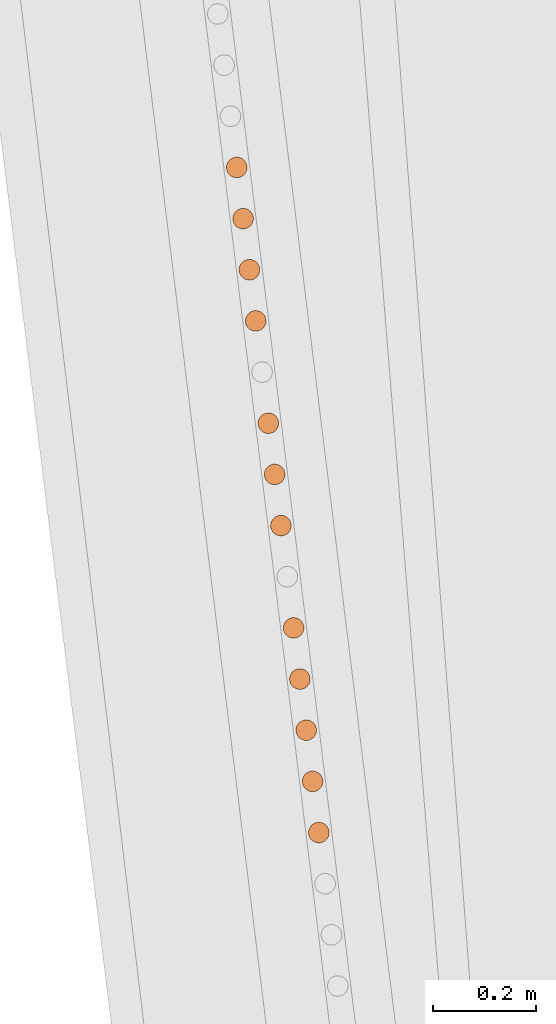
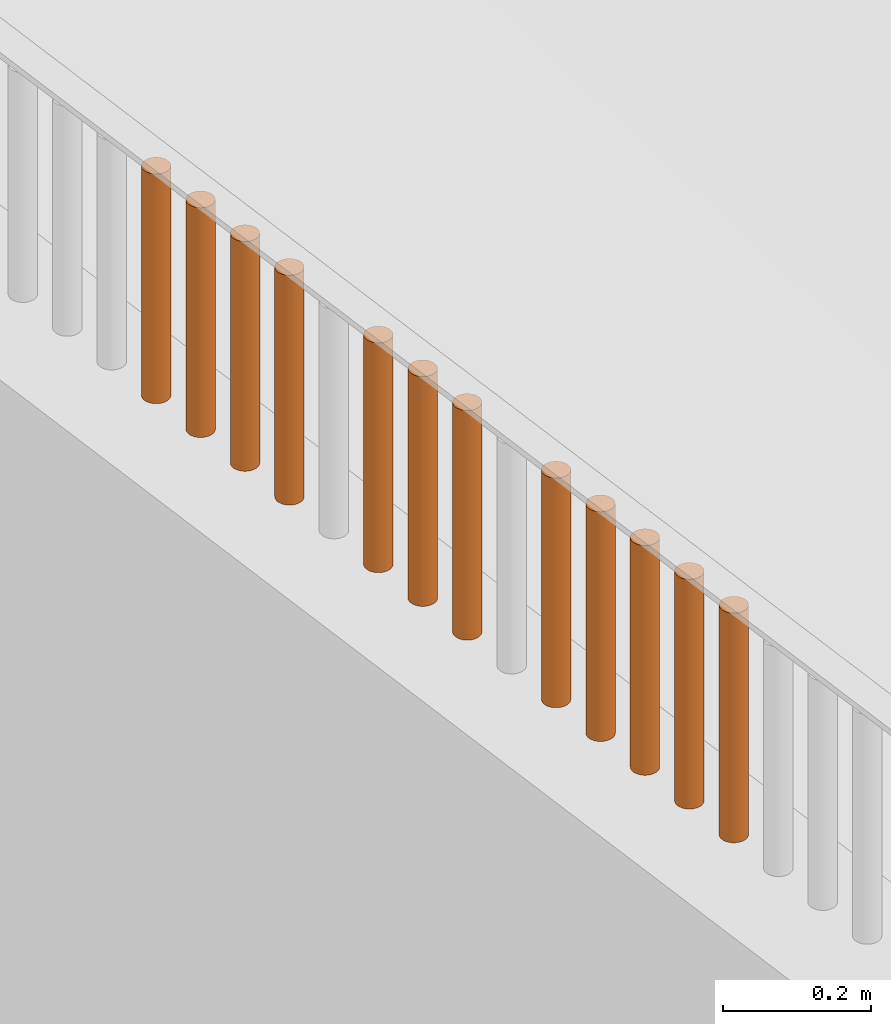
# One storey, part 67 of 1809: 12 proxies, 1 element without a shape of its own.
"""IFC2X3 building model written with IfcOpenShell, lengths in millimetres."""

from ifc_helpers import new_model, entity, si_unit, converted_unit, derived_unit, money_unit, direction, frame, origin_with_axes, place, context, subcontext, project, spatial, faceted_brep, source, transform, mapped, material, type_object, element, aggregate, save


model = new_model("IFC2X3")

# Units and contexts
model_context = context("Model", 3, precision=0.01, world=origin_with_axes(), true_north=direction((0.0, 1.0)))
body_context = subcontext(model_context, "Body", "Model", "MODEL_VIEW")
ifc_project = project(units=[si_unit("LENGTHUNIT", "METRE", prefix="MILLI"), si_unit("AREAUNIT", "SQUARE_METRE"), si_unit("VOLUMEUNIT", "CUBIC_METRE"), converted_unit("PLANEANGLEUNIT", "DEGREE", entity("IfcPlaneAngleMeasure", 0.0174532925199), si_unit("PLANEANGLEUNIT", "RADIAN"), dimensions=[0, 0, 0, 0, 0, 0, 0]), si_unit("SOLIDANGLEUNIT", "STERADIAN"), money_unit("EUR"), converted_unit("TIMEUNIT", "Year", entity("IfcTimeMeasure", 31556926.0), si_unit("TIMEUNIT", "SECOND"), dimensions=[0, 0, 1, 0, 0, 0, 0]), si_unit("MASSUNIT", "GRAM", prefix="KILO"), si_unit("THERMODYNAMICTEMPERATUREUNIT", "DEGREE_CELSIUS"), si_unit("LUMINOUSINTENSITYUNIT", "LUMEN"), si_unit("ENERGYUNIT", "JOULE", prefix="MEGA"), derived_unit("THERMALCONDUCTANCEUNIT", [(si_unit("POWERUNIT", "WATT"), 1), (si_unit("LENGTHUNIT", "METRE"), -1), (si_unit("THERMODYNAMICTEMPERATUREUNIT", "KELVIN"), -1)]), derived_unit("SPECIFICHEATCAPACITYUNIT", [(si_unit("ENERGYUNIT", "JOULE"), 1), (si_unit("MASSUNIT", "GRAM", prefix="KILO"), -1), (si_unit("THERMODYNAMICTEMPERATUREUNIT", "KELVIN"), -1)]), derived_unit("MASSDENSITYUNIT", [(si_unit("MASSUNIT", "GRAM", prefix="KILO"), 1), (si_unit("VOLUMEUNIT", "CUBIC_METRE"), -1)])], contexts=[model_context])

# Site, building, storey
site_placement = place(None, origin_with_axes())
site = spatial("IfcSite", under=ifc_project, at=site_placement, Name="Politse- ja Piirivalveameti ning Päästeameti ühishoone", CompositionType="ELEMENT")
building_placement = place(site_placement, origin_with_axes())
building = spatial("IfcBuilding", under=site, at=building_placement, Name="Politse- ja Piirivalveameti ning Päästeameti ühishoone", CompositionType="ELEMENT")
storey_placement = place(building_placement, origin_with_axes())
storey = spatial("IfcBuildingStorey", under=building, at=storey_placement, Name="Esimene korrus", CompositionType="ELEMENT", Elevation=0.0)

# Proxies
building_element_proxy_type_1 = type_object("IfcBuildingElementProxyType", Name="Railing Type", PredefinedType="NOTDEFINED")
proxy_1_placement = place(storey_placement, frame((-18956.5522504, -53688.4757966, 2100.0), z_axis=(0.0, 0.0, 1.0), x_axis=(1.0, 0.0, 0.0)))
proxy_1 = element("IfcBuildingElementProxy", 1, at=proxy_1_placement, inside=storey, type_object=building_element_proxy_type_1, Name="PIIRDEAED")
ifc_material = material(Name="ET-06_Teras - Konstruktsioon")
building_element_proxy_type_2 = type_object("IfcBuildingElementProxyType", Name="IfcBuildingElementProxy", PredefinedType="NOTDEFINED")
shared_shape_1 = source(origin_with_axes(), body_context, "Body", "Brep", [
    faceted_brep([(0.0, -20.0, 0.0), (3.47296355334, -19.6961550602, 0.0), (3.47296355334, -19.6961550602, 380.000012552), (0.0, -20.0, 380.000012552), (-3.47296355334, -19.6961550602, 0.0), (-6.84040286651, -18.7938524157, 0.0), (-10.0, -17.3205080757, 0.0), (-12.8557521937, -15.3208888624, 0.0), (-15.3208888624, -12.8557521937, 0.0), (-17.3205080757, -10.0, 0.0), (-18.7938524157, -6.84040286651, 0.0), (-19.6961550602, -3.47296355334, 0.0), (-20.0, 0.0, 0.0), (-19.6961550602, 3.47296355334, 0.0), (-18.7938524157, 6.84040286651, 0.0), (-17.3205080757, 10.0, 0.0), (-15.3208888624, 12.8557521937, 0.0), (-12.8557521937, 15.3208888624, 0.0), (-10.0, 17.3205080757, 0.0), (-6.84040286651, 18.7938524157, 0.0), (-3.47296355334, 19.6961550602, 0.0), (0.0, 20.0, 0.0), (3.47296355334, 19.6961550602, 0.0), (6.84040286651, 18.7938524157, 0.0), (10.0, 17.3205080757, 0.0), (12.8557521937, 15.3208888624, 0.0), (15.3208888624, 12.8557521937, 0.0), (17.3205080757, 10.0, 0.0), (18.7938524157, 6.84040286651, 0.0), (19.6961550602, 3.47296355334, 0.0), (20.0, 0.0, 0.0), (19.6961550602, -3.47296355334, 0.0), (18.7938524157, -6.84040286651, 0.0), (17.3205080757, -10.0, 0.0), (15.3208888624, -12.8557521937, 0.0), (12.8557521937, -15.3208888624, 0.0), (10.0, -17.3205080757, 0.0), (6.84040286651, -18.7938524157, 0.0), (6.84040286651, -18.7938524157, 380.000012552), (10.0, -17.3205080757, 380.000012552), (12.8557521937, -15.3208888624, 380.000012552), (15.3208888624, -12.8557521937, 380.000012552), (17.3205080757, -10.0, 380.000012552), (18.7938524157, -6.84040286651, 380.000012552), (19.6961550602, -3.47296355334, 380.000012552), (20.0, 0.0, 380.000012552), (19.6961550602, 3.47296355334, 380.000012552), (18.7938524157, 6.84040286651, 380.000012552), (17.3205080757, 10.0, 380.000012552), (15.3208888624, 12.8557521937, 380.000012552), (12.8557521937, 15.3208888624, 380.000012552), (10.0, 17.3205080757, 380.000012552), (6.84040286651, 18.7938524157, 380.000012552), (3.47296355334, 19.6961550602, 380.000012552), (0.0, 20.0, 380.000012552), (-3.47296355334, 19.6961550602, 380.000012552), (-6.84040286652, 18.7938524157, 380.000012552), (-10.0, 17.3205080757, 380.000012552), (-12.8557521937, 15.3208888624, 380.000012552), (-15.3208888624, 12.8557521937, 380.000012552), (-17.3205080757, 10.0, 380.000012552), (-18.7938524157, 6.84040286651, 380.000012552), (-19.6961550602, 3.47296355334, 380.000012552), (-20.0, 0.0, 380.000012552), (-19.6961550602, -3.47296355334, 380.000012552), (-18.7938524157, -6.84040286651, 380.000012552), (-17.3205080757, -10.0, 380.000012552), (-15.3208888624, -12.8557521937, 380.000012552), (-12.8557521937, -15.3208888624, 380.000012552), (-10.0, -17.3205080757, 380.000012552), (-6.84040286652, -18.7938524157, 380.000012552), (-3.47296355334, -19.6961550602, 380.000012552)], [[[0, 1, 2, 3]], [[0, 4, 5, 6, 7, 8, 9, 10, 11, 12, 13, 14, 15, 16, 17, 18, 19, 20, 21, 22, 23, 24, 25, 26, 27, 28, 29, 30, 31, 32, 33, 34, 35, 36, 37, 1]], [[1, 37, 38, 2]], [[3, 2, 38, 39, 40, 41, 42, 43, 44, 45, 46, 47, 48, 49, 50, 51, 52, 53, 54, 55, 56, 57, 58, 59, 60, 61, 62, 63, 64, 65, 66, 67, 68, 69, 70, 71]], [[4, 0, 3, 71]], [[5, 4, 71, 70]], [[6, 5, 70, 69]], [[7, 6, 69, 68]], [[8, 7, 68, 67]], [[9, 8, 67, 66]], [[10, 9, 66, 65]], [[11, 10, 65, 64]], [[12, 11, 64, 63]], [[13, 12, 63, 62]], [[14, 13, 62, 61]], [[15, 14, 61, 60]], [[16, 15, 60, 59]], [[17, 16, 59, 58]], [[18, 17, 58, 57]], [[19, 18, 57, 56]], [[20, 19, 56, 55]], [[21, 20, 55, 54]], [[22, 21, 54, 53]], [[23, 22, 53, 52]], [[24, 23, 52, 51]], [[25, 24, 51, 50]], [[26, 25, 50, 49]], [[27, 26, 49, 48]], [[28, 27, 48, 47]], [[29, 28, 47, 46]], [[30, 29, 46, 45]], [[31, 30, 45, 44]], [[32, 31, 44, 43]], [[33, 32, 43, 42]], [[34, 33, 42, 41]], [[35, 34, 41, 40]], [[36, 35, 40, 39]], [[37, 36, 39, 38]]]),
])
proxy_2_placement = place(proxy_1_placement, frame((-1905.68316987, 14604.9100961, -1.25517001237e-05), z_axis=(0.0, 0.0, 1.0), x_axis=(1.0, 0.0, 0.0)))
proxy_2 = element("IfcBuildingElementProxy", 2, at=proxy_2_placement, type_object=building_element_proxy_type_2, material=ifc_material, Name="BALUSTER - 001", context=body_context, shape_type="MappedRepresentation", body=[
    mapped(shared_shape_1, transform((0.0, 0.0, 0.0), x_axis=(0.992468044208, 0.122503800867, 0.0), y_axis=(-0.122503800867, 0.992468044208, 0.0), z_axis=(0.0, 0.0, 1.0))),
])
proxy_3_placement = place(proxy_1_placement, frame((-2028.160219, 15597.1614103, -1.25517001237e-05), z_axis=(0.0, 0.0, 1.0), x_axis=(1.0, 0.0, 0.0)))
proxy_3 = element("IfcBuildingElementProxy", 3, at=proxy_3_placement, type_object=building_element_proxy_type_2, material=ifc_material, Name="BALUSTER - 001", context=body_context, shape_type="MappedRepresentation", body=[
    mapped(shared_shape_1, transform((0.0, 0.0, 0.0), x_axis=(0.992468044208, 0.122503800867, 0.0), y_axis=(-0.122503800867, 0.992468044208, 0.0), z_axis=(0.0, 0.0, 1.0))),
])
shared_shape_2 = source(origin_with_axes(), body_context, "Body", "Brep", [
    faceted_brep([(0.0, -20.0, 0.0), (3.47296355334, -19.6961550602, 0.0), (3.47296355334, -19.6961550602, 380.000012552), (0.0, -20.0, 380.000012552), (-3.47296355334, -19.6961550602, 0.0), (-6.84040286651, -18.7938524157, 0.0), (-10.0, -17.3205080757, 0.0), (-12.8557521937, -15.3208888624, 0.0), (-15.3208888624, -12.8557521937, 0.0), (-17.3205080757, -10.0, 0.0), (-18.7938524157, -6.84040286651, 0.0), (-19.6961550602, -3.47296355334, 0.0), (-20.0, 0.0, 0.0), (-19.6961550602, 3.47296355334, 0.0), (-18.7938524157, 6.84040286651, 0.0), (-17.3205080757, 10.0, 0.0), (-15.3208888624, 12.8557521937, 0.0), (-12.8557521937, 15.3208888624, 0.0), (-10.0, 17.3205080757, 0.0), (-6.84040286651, 18.7938524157, 0.0), (-3.47296355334, 19.6961550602, 0.0), (0.0, 20.0, 0.0), (3.47296355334, 19.6961550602, 0.0), (6.84040286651, 18.7938524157, 0.0), (10.0, 17.3205080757, 0.0), (12.8557521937, 15.3208888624, 0.0), (15.3208888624, 12.8557521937, 0.0), (17.3205080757, 10.0, 0.0), (18.7938524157, 6.84040286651, 0.0), (19.6961550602, 3.47296355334, 0.0), (20.0, 0.0, 0.0), (19.6961550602, -3.47296355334, 0.0), (18.7938524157, -6.84040286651, 0.0), (17.3205080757, -10.0, 0.0), (15.3208888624, -12.8557521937, 0.0), (12.8557521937, -15.3208888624, 0.0), (10.0, -17.3205080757, 0.0), (6.84040286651, -18.7938524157, 0.0), (6.84040286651, -18.7938524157, 380.000012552), (10.0, -17.3205080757, 380.000012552), (12.8557521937, -15.3208888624, 380.000012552), (15.3208888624, -12.8557521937, 380.000012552), (17.3205080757, -10.0, 380.000012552), (18.7938524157, -6.84040286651, 380.000012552), (19.6961550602, -3.47296355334, 380.000012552), (20.0, 0.0, 380.000012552), (19.6961550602, 3.47296355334, 380.000012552), (18.7938524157, 6.84040286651, 380.000012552), (17.3205080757, 10.0, 380.000012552), (15.3208888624, 12.8557521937, 380.000012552), (12.8557521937, 15.3208888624, 380.000012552), (10.0, 17.3205080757, 380.000012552), (6.84040286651, 18.7938524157, 380.000012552), (3.47296355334, 19.6961550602, 380.000012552), (0.0, 20.0, 380.000012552), (-3.47296355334, 19.6961550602, 380.000012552), (-6.84040286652, 18.7938524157, 380.000012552), (-10.0, 17.3205080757, 380.000012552), (-12.8557521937, 15.3208888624, 380.000012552), (-15.3208888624, 12.8557521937, 380.000012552), (-17.3205080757, 10.0, 380.000012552), (-18.7938524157, 6.84040286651, 380.000012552), (-19.6961550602, 3.47296355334, 380.000012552), (-20.0, 0.0, 380.000012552), (-19.6961550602, -3.47296355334, 380.000012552), (-18.7938524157, -6.84040286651, 380.000012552), (-17.3205080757, -10.0, 380.000012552), (-15.3208888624, -12.8557521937, 380.000012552), (-12.8557521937, -15.3208888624, 380.000012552), (-10.0, -17.3205080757, 380.000012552), (-6.84040286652, -18.7938524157, 380.000012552), (-3.47296355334, -19.6961550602, 380.000012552)], [[[0, 1, 2, 3]], [[0, 4, 5, 6, 7, 8, 9, 10, 11, 12, 13, 14, 15, 16, 17, 18, 19, 20, 21, 22, 23, 24, 25, 26, 27, 28, 29, 30, 31, 32, 33, 34, 35, 36, 37, 1]], [[1, 37, 38, 2]], [[3, 2, 38, 39, 40, 41, 42, 43, 44, 45, 46, 47, 48, 49, 50, 51, 52, 53, 54, 55, 56, 57, 58, 59, 60, 61, 62, 63, 64, 65, 66, 67, 68, 69, 70, 71]], [[4, 0, 3, 71]], [[5, 4, 71, 70]], [[6, 5, 70, 69]], [[7, 6, 69, 68]], [[8, 7, 68, 67]], [[9, 8, 67, 66]], [[10, 9, 66, 65]], [[11, 10, 65, 64]], [[12, 11, 64, 63]], [[13, 12, 63, 62]], [[14, 13, 62, 61]], [[15, 14, 61, 60]], [[16, 15, 60, 59]], [[17, 16, 59, 58]], [[18, 17, 58, 57]], [[19, 18, 57, 56]], [[20, 19, 56, 55]], [[21, 20, 55, 54]], [[22, 21, 54, 53]], [[23, 22, 53, 52]], [[24, 23, 52, 51]], [[25, 24, 51, 50]], [[26, 25, 50, 49]], [[27, 26, 49, 48]], [[28, 27, 48, 47]], [[29, 28, 47, 46]], [[30, 29, 46, 45]], [[31, 30, 45, 44]], [[32, 31, 44, 43]], [[33, 32, 43, 42]], [[34, 33, 42, 41]], [[35, 34, 41, 40]], [[36, 35, 40, 39]], [[37, 36, 39, 38]]]),
])
proxy_4_placement = place(proxy_1_placement, frame((-1917.93087479, 14704.1352275, -1.25517001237e-05), z_axis=(0.0, 0.0, 1.0), x_axis=(1.0, 0.0, 0.0)))
proxy_4 = element("IfcBuildingElementProxy", 4, at=proxy_4_placement, type_object=building_element_proxy_type_2, material=ifc_material, Name="BALUSTER - 001", context=body_context, shape_type="MappedRepresentation", body=[
    mapped(shared_shape_2, transform((0.0, 0.0, 0.0), x_axis=(0.992468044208, 0.122503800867, 0.0), y_axis=(-0.122503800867, 0.992468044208, 0.0), z_axis=(0.0, 0.0, 1.0))),
])
proxy_5_placement = place(proxy_1_placement, frame((-1930.1785797, 14803.3603589, -1.25517001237e-05), z_axis=(0.0, 0.0, 1.0), x_axis=(1.0, 0.0, 0.0)))
proxy_5 = element("IfcBuildingElementProxy", 5, at=proxy_5_placement, type_object=building_element_proxy_type_2, material=ifc_material, Name="BALUSTER - 001", context=body_context, shape_type="MappedRepresentation", body=[
    mapped(shared_shape_2, transform((0.0, 0.0, 0.0), x_axis=(0.992468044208, 0.122503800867, 0.0), y_axis=(-0.122503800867, 0.992468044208, 0.0), z_axis=(0.0, 0.0, 1.0))),
])
proxy_6_placement = place(proxy_1_placement, frame((-1942.42628461, 14902.5854904, -1.25517001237e-05), z_axis=(0.0, 0.0, 1.0), x_axis=(1.0, 0.0, 0.0)))
proxy_6 = element("IfcBuildingElementProxy", 6, at=proxy_6_placement, type_object=building_element_proxy_type_2, material=ifc_material, Name="BALUSTER - 001", context=body_context, shape_type="MappedRepresentation", body=[
    mapped(shared_shape_2, transform((0.0, 0.0, 0.0), x_axis=(0.992468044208, 0.122503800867, 0.0), y_axis=(-0.122503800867, 0.992468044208, 0.0), z_axis=(0.0, 0.0, 1.0))),
])
proxy_7_placement = place(proxy_1_placement, frame((-1979.16939935, 15200.2608846, -1.25517001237e-05), z_axis=(0.0, 0.0, 1.0), x_axis=(1.0, 0.0, 0.0)))
proxy_7 = element("IfcBuildingElementProxy", 7, at=proxy_7_placement, type_object=building_element_proxy_type_2, material=ifc_material, Name="BALUSTER - 001", context=body_context, shape_type="MappedRepresentation", body=[
    mapped(shared_shape_2, transform((0.0, 0.0, 0.0), x_axis=(0.992468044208, 0.122503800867, 0.0), y_axis=(-0.122503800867, 0.992468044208, 0.0), z_axis=(0.0, 0.0, 1.0))),
])
proxy_8_placement = place(proxy_1_placement, frame((-1991.41710426, 15299.4860161, -1.25517001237e-05), z_axis=(0.0, 0.0, 1.0), x_axis=(1.0, 0.0, 0.0)))
proxy_8 = element("IfcBuildingElementProxy", 8, at=proxy_8_placement, type_object=building_element_proxy_type_2, material=ifc_material, Name="BALUSTER - 001", context=body_context, shape_type="MappedRepresentation", body=[
    mapped(shared_shape_2, transform((0.0, 0.0, 0.0), x_axis=(0.992468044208, 0.122503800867, 0.0), y_axis=(-0.122503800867, 0.992468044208, 0.0), z_axis=(0.0, 0.0, 1.0))),
])
proxy_9_placement = place(proxy_1_placement, frame((-2015.91251409, 15497.9362789, -1.25517001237e-05), z_axis=(0.0, 0.0, 1.0), x_axis=(1.0, 0.0, 0.0)))
proxy_9 = element("IfcBuildingElementProxy", 9, at=proxy_9_placement, type_object=building_element_proxy_type_2, material=ifc_material, Name="BALUSTER - 001", context=body_context, shape_type="MappedRepresentation", body=[
    mapped(shared_shape_2, transform((0.0, 0.0, 0.0), x_axis=(0.992468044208, 0.122503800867, 0.0), y_axis=(-0.122503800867, 0.992468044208, 0.0), z_axis=(0.0, 0.0, 1.0))),
])
proxy_10_placement = place(proxy_1_placement, frame((-2040.40792392, 15696.3865418, -1.25517001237e-05), z_axis=(0.0, 0.0, 1.0), x_axis=(1.0, 0.0, 0.0)))
proxy_10 = element("IfcBuildingElementProxy", 10, at=proxy_10_placement, type_object=building_element_proxy_type_2, material=ifc_material, Name="BALUSTER - 001", context=body_context, shape_type="MappedRepresentation", body=[
    mapped(shared_shape_2, transform((0.0, 0.0, 0.0), x_axis=(0.992468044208, 0.122503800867, 0.0), y_axis=(-0.122503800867, 0.992468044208, 0.0), z_axis=(0.0, 0.0, 1.0))),
])
shared_shape_3 = source(origin_with_axes(), body_context, "Body", "Brep", [
    faceted_brep([(0.0, -20.0, 0.0), (3.47296355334, -19.6961550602, 0.0), (3.47296355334, -19.6961550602, 380.000012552), (0.0, -20.0, 380.000012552), (-3.47296355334, -19.6961550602, 0.0), (-6.84040286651, -18.7938524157, 0.0), (-10.0, -17.3205080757, 0.0), (-12.8557521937, -15.3208888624, 0.0), (-15.3208888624, -12.8557521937, 0.0), (-17.3205080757, -10.0, 0.0), (-18.7938524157, -6.84040286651, 0.0), (-19.6961550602, -3.47296355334, 0.0), (-20.0, 0.0, 0.0), (-19.6961550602, 3.47296355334, 0.0), (-18.7938524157, 6.84040286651, 0.0), (-17.3205080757, 10.0, 0.0), (-15.3208888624, 12.8557521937, 0.0), (-12.8557521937, 15.3208888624, 0.0), (-10.0, 17.3205080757, 0.0), (-6.84040286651, 18.7938524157, 0.0), (-3.47296355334, 19.6961550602, 0.0), (0.0, 20.0, 0.0), (3.47296355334, 19.6961550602, 0.0), (6.84040286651, 18.7938524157, 0.0), (10.0, 17.3205080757, 0.0), (12.8557521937, 15.3208888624, 0.0), (15.3208888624, 12.8557521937, 0.0), (17.3205080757, 10.0, 0.0), (18.7938524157, 6.84040286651, 0.0), (19.6961550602, 3.47296355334, 0.0), (20.0, 0.0, 0.0), (19.6961550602, -3.47296355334, 0.0), (18.7938524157, -6.84040286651, 0.0), (17.3205080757, -10.0, 0.0), (15.3208888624, -12.8557521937, 0.0), (12.8557521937, -15.3208888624, 0.0), (10.0, -17.3205080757, 0.0), (6.84040286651, -18.7938524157, 0.0), (6.84040286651, -18.7938524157, 380.000012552), (10.0, -17.3205080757, 380.000012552), (12.8557521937, -15.3208888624, 380.000012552), (15.3208888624, -12.8557521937, 380.000012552), (17.3205080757, -10.0, 380.000012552), (18.7938524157, -6.84040286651, 380.000012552), (19.6961550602, -3.47296355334, 380.000012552), (20.0, 0.0, 380.000012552), (19.6961550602, 3.47296355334, 380.000012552), (18.7938524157, 6.84040286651, 380.000012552), (17.3205080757, 10.0, 380.000012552), (15.3208888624, 12.8557521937, 380.000012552), (12.8557521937, 15.3208888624, 380.000012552), (10.0, 17.3205080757, 380.000012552), (6.84040286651, 18.7938524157, 380.000012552), (3.47296355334, 19.6961550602, 380.000012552), (0.0, 20.0, 380.000012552), (-3.47296355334, 19.6961550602, 380.000012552), (-6.84040286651, 18.7938524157, 380.000012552), (-10.0, 17.3205080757, 380.000012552), (-12.8557521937, 15.3208888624, 380.000012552), (-15.3208888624, 12.8557521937, 380.000012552), (-17.3205080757, 10.0, 380.000012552), (-18.7938524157, 6.84040286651, 380.000012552), (-19.6961550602, 3.47296355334, 380.000012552), (-20.0, 0.0, 380.000012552), (-19.6961550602, -3.47296355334, 380.000012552), (-18.7938524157, -6.84040286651, 380.000012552), (-17.3205080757, -10.0, 380.000012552), (-15.3208888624, -12.8557521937, 380.000012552), (-12.8557521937, -15.3208888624, 380.000012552), (-10.0, -17.3205080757, 380.000012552), (-6.84040286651, -18.7938524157, 380.000012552), (-3.47296355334, -19.6961550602, 380.000012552)], [[[0, 1, 2, 3]], [[0, 4, 5, 6, 7, 8, 9, 10, 11, 12, 13, 14, 15, 16, 17, 18, 19, 20, 21, 22, 23, 24, 25, 26, 27, 28, 29, 30, 31, 32, 33, 34, 35, 36, 37, 1]], [[1, 37, 38, 2]], [[3, 2, 38, 39, 40, 41, 42, 43, 44, 45, 46, 47, 48, 49, 50, 51, 52, 53, 54, 55, 56, 57, 58, 59, 60, 61, 62, 63, 64, 65, 66, 67, 68, 69, 70, 71]], [[4, 0, 3, 71]], [[5, 4, 71, 70]], [[6, 5, 70, 69]], [[7, 6, 69, 68]], [[8, 7, 68, 67]], [[9, 8, 67, 66]], [[10, 9, 66, 65]], [[11, 10, 65, 64]], [[12, 11, 64, 63]], [[13, 12, 63, 62]], [[14, 13, 62, 61]], [[15, 14, 61, 60]], [[16, 15, 60, 59]], [[17, 16, 59, 58]], [[18, 17, 58, 57]], [[19, 18, 57, 56]], [[20, 19, 56, 55]], [[21, 20, 55, 54]], [[22, 21, 54, 53]], [[23, 22, 53, 52]], [[24, 23, 52, 51]], [[25, 24, 51, 50]], [[26, 25, 50, 49]], [[27, 26, 49, 48]], [[28, 27, 48, 47]], [[29, 28, 47, 46]], [[30, 29, 46, 45]], [[31, 30, 45, 44]], [[32, 31, 44, 43]], [[33, 32, 43, 42]], [[34, 33, 42, 41]], [[35, 34, 41, 40]], [[36, 35, 40, 39]], [[37, 36, 39, 38]]]),
])
proxy_11_placement = place(proxy_1_placement, frame((-1966.92169444, 15101.0357532, -1.25517001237e-05), z_axis=(0.0, 0.0, 1.0), x_axis=(1.0, 0.0, 0.0)))
proxy_11 = element("IfcBuildingElementProxy", 11, at=proxy_11_placement, type_object=building_element_proxy_type_2, material=ifc_material, Name="BALUSTER - 001", context=body_context, shape_type="MappedRepresentation", body=[
    mapped(shared_shape_3, transform((0.0, 0.0, 0.0), x_axis=(0.992468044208, 0.122503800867, 0.0), y_axis=(-0.122503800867, 0.992468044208, 0.0), z_axis=(0.0, 0.0, 1.0))),
])
proxy_12_placement = place(proxy_1_placement, frame((-2052.65562883, 15795.6116732, -1.25517001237e-05), z_axis=(0.0, 0.0, 1.0), x_axis=(1.0, 0.0, 0.0)))
proxy_12 = element("IfcBuildingElementProxy", 12, at=proxy_12_placement, type_object=building_element_proxy_type_2, material=ifc_material, Name="BALUSTER - 001", context=body_context, shape_type="MappedRepresentation", body=[
    mapped(shared_shape_3, transform((0.0, 0.0, 0.0), x_axis=(0.992468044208, 0.122503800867, 0.0), y_axis=(-0.122503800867, 0.992468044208, 0.0), z_axis=(0.0, 0.0, 1.0))),
])
shared_shape_4 = source(origin_with_axes(), body_context, "Body", "Brep", [
    faceted_brep([(0.0, -20.0, 0.0), (3.47296355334, -19.6961550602, 0.0), (3.47296355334, -19.6961550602, 380.000012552), (0.0, -20.0, 380.000012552), (-3.47296355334, -19.6961550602, 0.0), (-6.84040286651, -18.7938524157, 0.0), (-10.0, -17.3205080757, 0.0), (-12.8557521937, -15.3208888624, 0.0), (-15.3208888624, -12.8557521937, 0.0), (-17.3205080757, -10.0, 0.0), (-18.7938524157, -6.84040286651, 0.0), (-19.6961550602, -3.47296355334, 0.0), (-20.0, 0.0, 0.0), (-19.6961550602, 3.47296355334, 0.0), (-18.7938524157, 6.84040286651, 0.0), (-17.3205080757, 10.0, 0.0), (-15.3208888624, 12.8557521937, 0.0), (-12.8557521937, 15.3208888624, 0.0), (-10.0, 17.3205080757, 0.0), (-6.84040286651, 18.7938524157, 0.0), (-3.47296355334, 19.6961550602, 0.0), (0.0, 20.0, 0.0), (3.47296355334, 19.6961550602, 0.0), (6.84040286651, 18.7938524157, 0.0), (10.0, 17.3205080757, 0.0), (12.8557521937, 15.3208888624, 0.0), (15.3208888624, 12.8557521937, 0.0), (17.3205080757, 10.0, 0.0), (18.7938524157, 6.84040286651, 0.0), (19.6961550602, 3.47296355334, 0.0), (20.0, 0.0, 0.0), (19.6961550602, -3.47296355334, 0.0), (18.7938524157, -6.84040286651, 0.0), (17.3205080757, -10.0, 0.0), (15.3208888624, -12.8557521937, 0.0), (12.8557521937, -15.3208888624, 0.0), (10.0, -17.3205080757, 0.0), (6.84040286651, -18.7938524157, 0.0), (6.84040286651, -18.7938524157, 380.000012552), (10.0, -17.3205080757, 380.000012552), (12.8557521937, -15.3208888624, 380.000012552), (15.3208888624, -12.8557521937, 380.000012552), (17.3205080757, -10.0, 380.000012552), (18.7938524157, -6.84040286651, 380.000012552), (19.6961550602, -3.47296355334, 380.000012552), (20.0, 0.0, 380.000012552), (19.6961550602, 3.47296355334, 380.000012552), (18.7938524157, 6.84040286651, 380.000012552), (17.3205080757, 10.0, 380.000012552), (15.3208888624, 12.8557521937, 380.000012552), (12.8557521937, 15.3208888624, 380.000012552), (10.0, 17.3205080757, 380.000012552), (6.84040286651, 18.7938524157, 380.000012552), (3.47296355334, 19.6961550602, 380.000012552), (0.0, 20.0, 380.000012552), (-3.47296355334, 19.6961550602, 380.000012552), (-6.84040286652, 18.7938524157, 380.000012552), (-10.0, 17.3205080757, 380.000012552), (-12.8557521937, 15.3208888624, 380.000012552), (-15.3208888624, 12.8557521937, 380.000012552), (-17.3205080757, 10.0, 380.000012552), (-18.7938524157, 6.84040286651, 380.000012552), (-19.6961550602, 3.47296355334, 380.000012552), (-20.0, 0.0, 380.000012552), (-19.6961550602, -3.47296355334, 380.000012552), (-18.7938524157, -6.84040286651, 380.000012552), (-17.3205080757, -10.0, 380.000012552), (-15.3208888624, -12.8557521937, 380.000012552), (-12.8557521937, -15.3208888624, 380.000012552), (-10.0, -17.3205080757, 380.000012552), (-6.84040286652, -18.7938524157, 380.000012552), (-3.47296355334, -19.6961550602, 380.000012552)], [[[0, 1, 2, 3]], [[0, 4, 5, 6, 7, 8, 9, 10, 11, 12, 13, 14, 15, 16, 17, 18, 19, 20, 21, 22, 23, 24, 25, 26, 27, 28, 29, 30, 31, 32, 33, 34, 35, 36, 37, 1]], [[1, 37, 38, 2]], [[3, 2, 38, 39, 40, 41, 42, 43, 44, 45, 46, 47, 48, 49, 50, 51, 52, 53, 54, 55, 56, 57, 58, 59, 60, 61, 62, 63, 64, 65, 66, 67, 68, 69, 70, 71]], [[4, 0, 3, 71]], [[5, 4, 71, 70]], [[6, 5, 70, 69]], [[7, 6, 69, 68]], [[8, 7, 68, 67]], [[9, 8, 67, 66]], [[10, 9, 66, 65]], [[11, 10, 65, 64]], [[12, 11, 64, 63]], [[13, 12, 63, 62]], [[14, 13, 62, 61]], [[15, 14, 61, 60]], [[16, 15, 60, 59]], [[17, 16, 59, 58]], [[18, 17, 58, 57]], [[19, 18, 57, 56]], [[20, 19, 56, 55]], [[21, 20, 55, 54]], [[22, 21, 54, 53]], [[23, 22, 53, 52]], [[24, 23, 52, 51]], [[25, 24, 51, 50]], [[26, 25, 50, 49]], [[27, 26, 49, 48]], [[28, 27, 48, 47]], [[29, 28, 47, 46]], [[30, 29, 46, 45]], [[31, 30, 45, 44]], [[32, 31, 44, 43]], [[33, 32, 43, 42]], [[34, 33, 42, 41]], [[35, 34, 41, 40]], [[36, 35, 40, 39]], [[37, 36, 39, 38]]]),
])
proxy_13_placement = place(proxy_1_placement, frame((-1893.43546496, 14505.6849647, -1.25517001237e-05), z_axis=(0.0, 0.0, 1.0), x_axis=(1.0, 0.0, 0.0)))
proxy_13 = element("IfcBuildingElementProxy", 13, at=proxy_13_placement, type_object=building_element_proxy_type_2, material=ifc_material, Name="BALUSTER - 001", context=body_context, shape_type="MappedRepresentation", body=[
    mapped(shared_shape_4, transform((0.0, 0.0, 0.0), x_axis=(0.992468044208, 0.122503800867, 0.0), y_axis=(-0.122503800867, 0.992468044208, 0.0), z_axis=(0.0, 0.0, 1.0))),
])
aggregate(proxy_1, [proxy_13, proxy_2, proxy_4, proxy_5, proxy_6, proxy_11, proxy_7, proxy_8, proxy_9, proxy_3, proxy_10, proxy_12])

save(model, "model.ifc")
